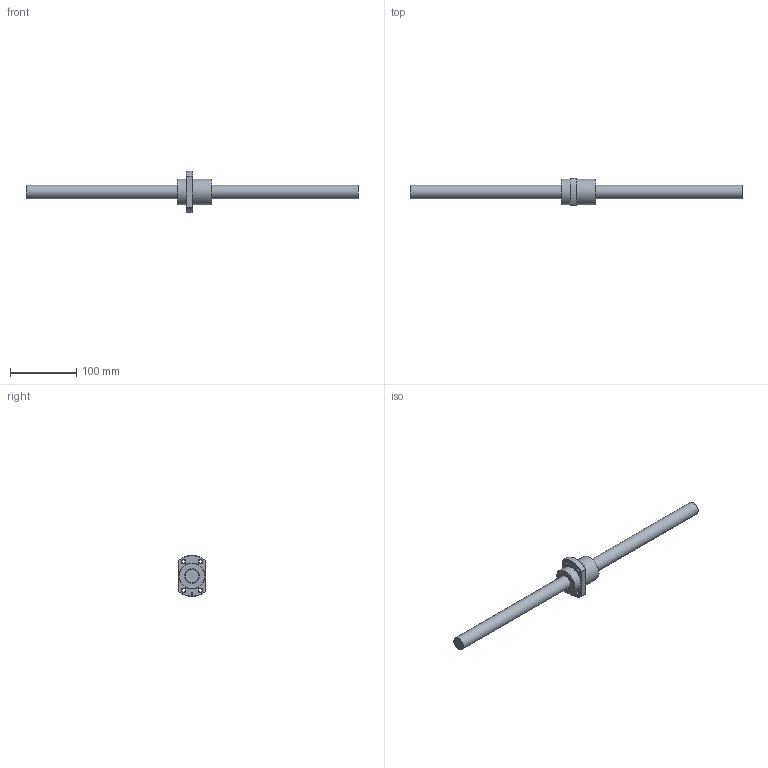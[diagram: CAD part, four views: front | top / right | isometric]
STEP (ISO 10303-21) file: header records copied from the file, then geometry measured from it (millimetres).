
FILE_DESCRIPTION (( 'STEP AP203' ), '1' );
FILE_NAME ('SFY02020-3.6.step', '2024-05-21T08:56:39', ( '' ), ( '' ), 'SwSTEP 2.0', 'SolidWorks 2022', '' );
FILE_SCHEMA (( 'CONFIG_CONTROL_DESIGN' ));
Length unit declared in the file: millimetre
Products named in the file (1): SFY02020-3.6
Bounding box: 500 x 41 x 61.9 mm (x, y, z)
Volume: 209989.5 mm3; surface area: 47076.1 mm2
Topology: 2 solids, 2 shells, 50 faces, 125 edges, 80 vertices
Faces by surface type: cylinder 17, plane 13, cone 9, torus 6, bspline 5
Full cylindrical faces by diameter (mm): 2.5 x1, 5 x5, 5.5 x4, 20 x1, 21.8 x1, 39 x2
Entity records: 3034 total; most frequent: CARTESIAN_POINT 2084, DIRECTION 168, ORIENTED_EDGE 156, EDGE_LOOP 80, EDGE_CURVE 78, AXIS2_PLACEMENT_3D 76, VERTEX_POINT 62, FACE_OUTER_BOUND 57
